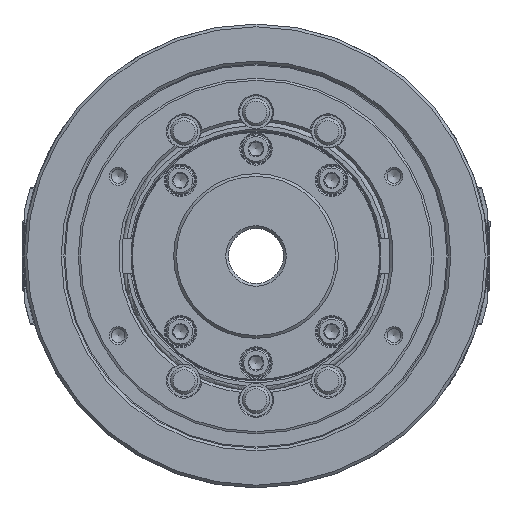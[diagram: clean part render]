
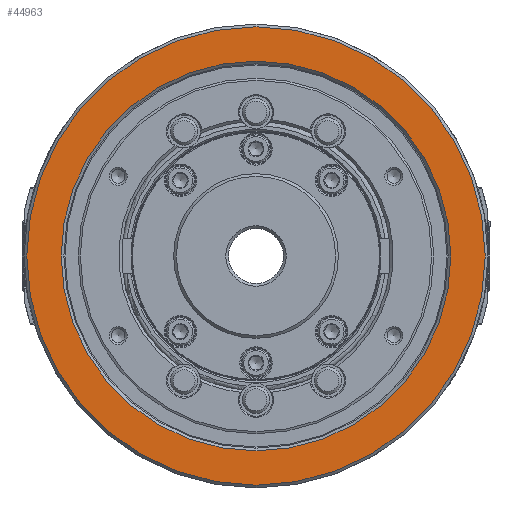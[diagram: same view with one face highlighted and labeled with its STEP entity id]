
A CAD part, left-side view. The second image highlights one B-rep face of the part: STEP entity #44963.
In plain terms, the highlighted planar face has unit normal (-1, 0, 0).
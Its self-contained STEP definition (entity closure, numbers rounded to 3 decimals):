
#100 = CARTESIAN_POINT ( 'NONE',  ( -81., 0., 0. ) ) ;
#1097 = CIRCLE ( 'NONE', #34031, 71. ) ;
#7038 = CARTESIAN_POINT ( 'NONE',  ( -81., 71., 0. ) ) ;
#7720 = EDGE_LOOP ( 'NONE', ( #34467 ) ) ;
#9928 = AXIS2_PLACEMENT_3D ( 'NONE', #100, #11578, #52692 ) ;
#11578 = DIRECTION ( 'NONE',  ( 1., 0., 0. ) ) ;
#12405 = PLANE ( 'NONE',  #66153 ) ;
#13689 = EDGE_LOOP ( 'NONE', ( #62733 ) ) ;
#21688 = VERTEX_POINT ( 'NONE', #38832 ) ;
#26897 = DIRECTION ( 'NONE',  ( 0., 0., 1. ) ) ;
#30696 = CIRCLE ( 'NONE', #9928, 83.5 ) ;
#34031 = AXIS2_PLACEMENT_3D ( 'NONE', #55796, #43286, #26897 ) ;
#34467 = ORIENTED_EDGE ( 'NONE', *, *, #40536, .F. ) ;
#35832 = CARTESIAN_POINT ( 'NONE',  ( -81., 0., 83.5 ) ) ;
#38832 = CARTESIAN_POINT ( 'NONE',  ( -81., 0., 71. ) ) ;
#40536 = EDGE_CURVE ( 'NONE', #70436, #70436, #30696, .T. ) ;
#41412 = FACE_BOUND ( 'NONE', #13689, .T. ) ;
#43286 = DIRECTION ( 'NONE',  ( 1., 0., 0. ) ) ;
#44963 = ADVANCED_FACE ( 'NONE', ( #64235, #41412 ), #12405, .F. ) ;
#52692 = DIRECTION ( 'NONE',  ( 0., 0., 1. ) ) ;
#55796 = CARTESIAN_POINT ( 'NONE',  ( -81., 0., 0. ) ) ;
#58506 = DIRECTION ( 'NONE',  ( 0., 0., 1. ) ) ;
#58793 = EDGE_CURVE ( 'NONE', #21688, #21688, #1097, .T. ) ;
#62733 = ORIENTED_EDGE ( 'NONE', *, *, #58793, .T. ) ;
#63865 = DIRECTION ( 'NONE',  ( 1., 0., 0. ) ) ;
#64235 = FACE_OUTER_BOUND ( 'NONE', #7720, .T. ) ;
#66153 = AXIS2_PLACEMENT_3D ( 'NONE', #7038, #63865, #58506 ) ;
#70436 = VERTEX_POINT ( 'NONE', #35832 ) ;
